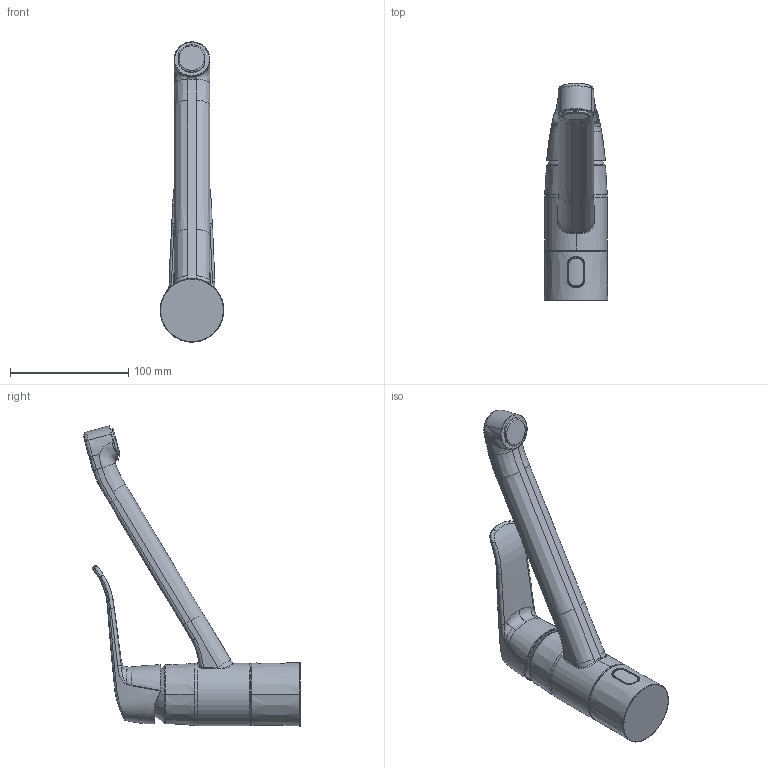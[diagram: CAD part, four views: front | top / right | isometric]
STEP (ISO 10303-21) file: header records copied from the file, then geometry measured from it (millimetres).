
FILE_DESCRIPTION (( 'STEP AP203' ), '1' );
FILE_NAME ('5730FQ(2023).STEP', '2023-10-23T10:16:56', ( '' ), ( '' ), 'SwSTEP 2.0', 'SolidWorks 2016', '' );
FILE_SCHEMA (( 'CONFIG_CONTROL_DESIGN' ));
Length unit declared in the file: millimetre
Products named in the file (1): 5730FQ(2023)
Bounding box: 53.72 x 183.47 x 253.95 mm (x, y, z)
Volume: 467701 mm3; surface area: 56586.1 mm2
Topology: 1 solids, 1 shells, 243 faces, 598 edges, 362 vertices
Faces by surface type: bspline 179, plane 28, cylinder 23, cone 7, torus 6
Entity records: 24147 total; most frequent: CARTESIAN_POINT 19826, ORIENTED_EDGE 1196, EDGE_CURVE 598, DIRECTION 417, B_SPLINE_CURVE_WITH_KNOTS 386, VERTEX_POINT 362, EDGE_LOOP 248, FACE_OUTER_BOUND 243
